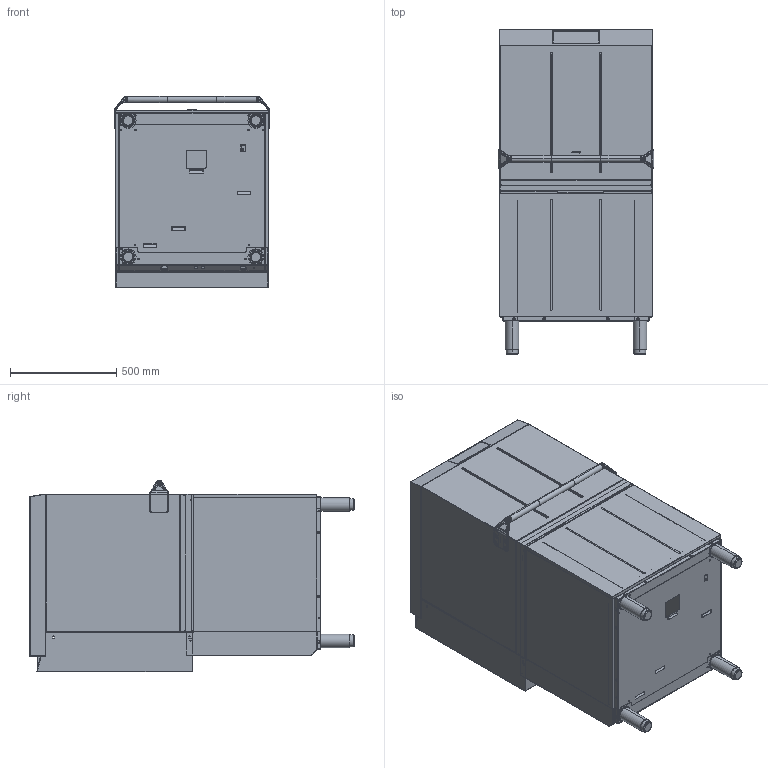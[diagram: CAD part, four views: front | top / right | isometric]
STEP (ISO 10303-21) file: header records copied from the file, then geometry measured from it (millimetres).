
FILE_DESCRIPTION (( 'STEP AP203' ), '1' );
FILE_NAME ('HTY620DH.STEP', '2017-06-12T14:19:26', ( '' ), ( '' ), 'SwSTEP 2.0', 'SolidWorks 2016', '' );
FILE_SCHEMA (( 'CONFIG_CONTROL_DESIGN' ));
Length unit declared in the file: millimetre
Products named in the file (22): fondo telaio; telaio_ant_inf; telaio ant sx; Specchiaturatelaio ant sx_STD; ZIN-Piedino; Telaio-Posteriore-Capote2; PRF-CAP-Rinf-Piedini; ZIN-AS-Basamento-Struttura; cornice; ZIN-maniglia-D30-Spalle-ZAMA_cilindro unico; Spalla-Maniglia-AL-Interasse-Stretto; Vite-Manilglia; Guarnizione-Calza; ZIN-AS-Maniglia-Spalle-ZAMA; capote esterna; ZIN-Piano-Top-CAPOTE-2; ZIN-Pannello-Inferiore-SX; ZIN-Pannello-Anteriore-Inferiore; Retro-INF; Retro-SUP; ZIN-Pannello-Inferiore-DX; HTY620DH
Assembly tree (36 placements, depth 3):
  HTY620DH
    ZIN-AS-Basamento-Struttura
      fondo telaio
      telaio_ant_inf
      telaio ant sx
      Specchiaturatelaio ant sx_STD
      ZIN-Piedino  x4
      Telaio-Posteriore-Capote2
      PRF-CAP-Rinf-Piedini  x4
    cornice
    ZIN-AS-Maniglia-Spalle-ZAMA
      ZIN-maniglia-D30-Spalle-ZAMA_cilindro unico
      Spalla-Maniglia-AL-Interasse-Stretto  x2
      Vite-Manilglia  x2
      Guarnizione-Calza  x8
    capote esterna
    ZIN-Piano-Top-CAPOTE-2
    ZIN-Pannello-Inferiore-SX
    ZIN-Pannello-Anteriore-Inferiore
    Retro-INF
    Retro-SUP
    ZIN-Pannello-Inferiore-DX
Bounding box: 730 x 1524.3 x 899.02 mm (x, y, z)
Volume: 7756968.5 mm3; surface area: 13146569.8 mm2
Topology: 34 solids, 38 shells, 4277 faces, 10462 edges, 6384 vertices
Faces by surface type: plane 1584, cylinder 1390, bspline 1103, cone 200
Entity records: 117344 total; most frequent: CARTESIAN_POINT 41258, ORIENTED_EDGE 15596, DIRECTION 14829, EDGE_CURVE 7798, AXIS2_PLACEMENT_3D 5154, VERTEX_POINT 4838, VECTOR 4521, LINE 4521
